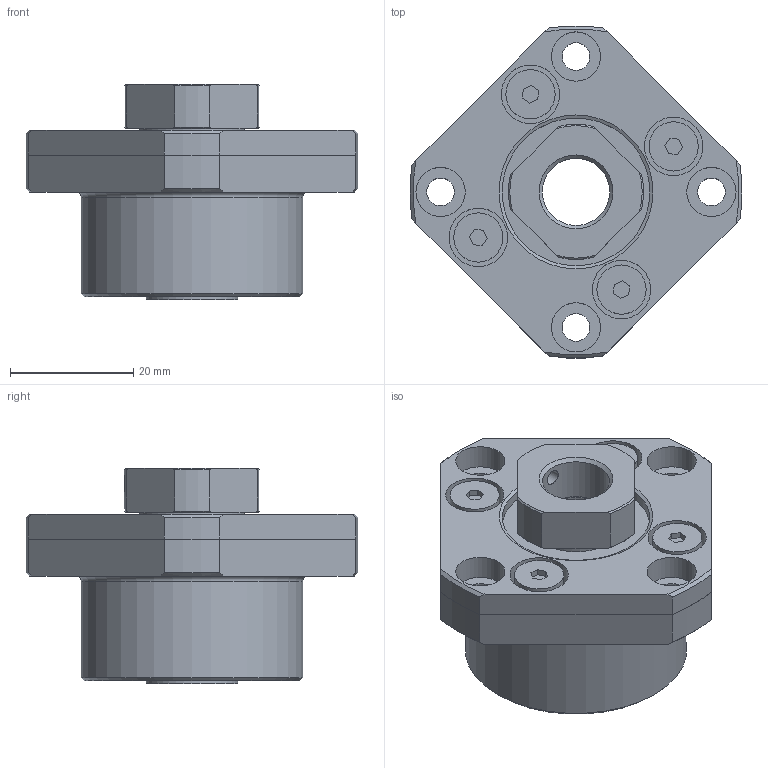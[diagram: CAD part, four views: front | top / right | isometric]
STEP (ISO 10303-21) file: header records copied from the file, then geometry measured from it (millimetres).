
FILE_DESCRIPTION(/* description */ ('STEP AP214'),/* implementation_level */ '2;1');
FILE_NAME(/* name */ 'FK12______CAD_NO_Yes-FS',/* time_stamp */ '2026-09-17T13:35:35+02:00',/* author */ ('License CC BY-ND 4.0'),/* organization */ ('CADENAS'),/* preprocessor_version */ 'ST-DEVELOPER v20',/* originating_system */ 'PARTsolutions',/* authorisation */ ' ');
FILE_SCHEMA (('AUTOMOTIVE_DESIGN {1 0 10303 214 3 1 1}'));
Length unit declared in the file: millimetre
Products named in the file (4): FK12______CAD_NO_Yes-FS; FK 12-FS-1; FK 12collar; RN 12
Assembly tree (4 placements, depth 2):
  FK12______CAD_NO_Yes-FS
    FK 12-FS-1
    FK 12collar  x2
    RN 12
Bounding box: 53.92 x 53.92 x 35 mm (x, y, z)
Volume: 32183.1 mm3; surface area: 12058.2 mm2
Topology: 4 solids, 4 shells, 155 faces, 349 edges, 231 vertices
Faces by surface type: plane 83, cylinder 48, cone 23, torus 1
Full cylindrical faces by diameter (mm): 2.459 x1, 3 x1, 4.5 x4, 8 x8, 9.5 x4, 10.917 x1, 12 x3, 14.9 x4, 17 x1, 24 x2, 26.4 x1, 26.44 x1, 36 x1
Entity records: 4219 total; most frequent: CARTESIAN_POINT 798, DIRECTION 694, ORIENTED_EDGE 604, EDGE_CURVE 302, AXIS2_PLACEMENT_3D 270, EDGE_LOOP 232, FACE_BOUND 232, VERTEX_POINT 224
